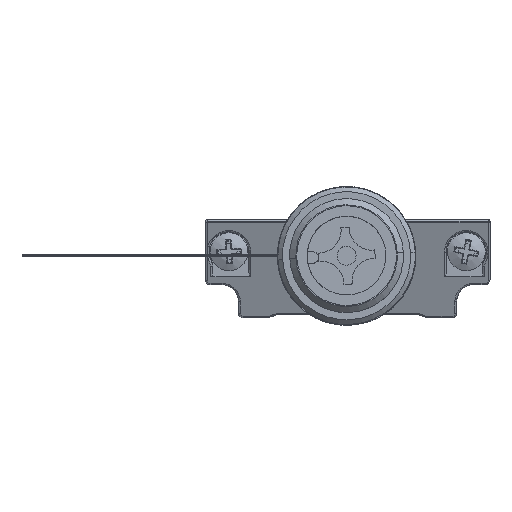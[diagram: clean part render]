
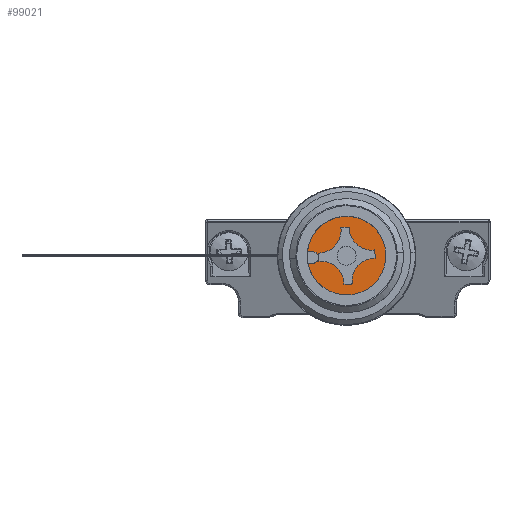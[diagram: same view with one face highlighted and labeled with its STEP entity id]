
A CAD part, top view. The second image highlights one B-rep face of the part: STEP entity #99021.
In plain terms, the highlighted planar face has unit normal (0, 0, 1).
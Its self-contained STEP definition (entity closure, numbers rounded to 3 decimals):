
#95180=DIRECTION('',(-0.999,-0.054,0.));
#95181=VECTOR('',#95180,0.56);
#95182=CARTESIAN_POINT('',(-3.683,6.102,
191.542));
#95183=LINE('',#95182,#95181);
#95184=CARTESIAN_POINT('',(-0.109,5.695,
191.542));
#95185=DIRECTION('',(0.,0.,-1.));
#95186=DIRECTION('',(-0.996,0.091,0.));
#95187=AXIS2_PLACEMENT_3D('',#95184,#95185,#95186);
#95189=CARTESIAN_POINT('',(-0.109,5.695,
191.542));
#95190=DIRECTION('',(0.,0.,-1.));
#95191=DIRECTION('',(-0.054,0.999,0.));
#95192=AXIS2_PLACEMENT_3D('',#95189,#95190,#95191);
#95194=CARTESIAN_POINT('',(-0.109,5.695,
191.542));
#95195=DIRECTION('',(0.,0.,-1.));
#95196=DIRECTION('',(0.054,-0.999,0.));
#95197=AXIS2_PLACEMENT_3D('',#95194,#95195,#95196);
#95199=DIRECTION('',(0.999,0.054,0.));
#95200=VECTOR('',#95199,0.56);
#95201=CARTESIAN_POINT('',(-4.177,4.873,
191.542));
#95202=LINE('',#95201,#95200);
#95203=DIRECTION('',(0.054,-0.999,0.));
#95204=VECTOR('',#95203,0.364);
#95205=CARTESIAN_POINT('',(-3.051,5.47,
191.542));
#95206=LINE('',#95205,#95204);
#95207=CARTESIAN_POINT('',(-2.78,2.719,
191.542));
#95208=DIRECTION('',(0.,0.,-1.));
#95209=DIRECTION('',(-0.105,0.994,0.));
#95210=AXIS2_PLACEMENT_3D('',#95207,#95208,#95209);
#95212=DIRECTION('',(0.999,0.054,0.));
#95213=VECTOR('',#95212,0.87);
#95214=CARTESIAN_POINT('',(-0.38,2.676,
191.542));
#95215=LINE('',#95214,#95213);
#95216=CARTESIAN_POINT('',(2.869,3.03,191.542));
#95217=DIRECTION('',(0.,0.,-1.));
#95218=DIRECTION('',(-0.992,-0.127,0.));
#95219=AXIS2_PLACEMENT_3D('',#95216,#95217,#95218);
#95221=DIRECTION('',(-0.054,0.999,0.));
#95222=VECTOR('',#95221,0.87);
#95223=CARTESIAN_POINT('',(2.91,5.429,191.542));
#95224=LINE('',#95223,#95222);
#95225=CARTESIAN_POINT('',(2.562,8.679,191.542));
#95226=DIRECTION('',(0.,0.,-1.));
#95227=DIRECTION('',(0.125,-0.992,0.));
#95228=AXIS2_PLACEMENT_3D('',#95225,#95226,#95227);
#95230=CARTESIAN_POINT('',(2.562,8.679,191.542));
#95231=DIRECTION('',(0.,0.,-1.));
#95232=DIRECTION('',(0.054,-0.999,0.));
#95233=AXIS2_PLACEMENT_3D('',#95230,#95231,#95232);
#95235=DIRECTION('',(-0.999,-0.054,0.));
#95236=VECTOR('',#95235,0.87);
#95237=CARTESIAN_POINT('',(0.162,8.715,
191.542));
#95238=LINE('',#95237,#95236);
#95239=CARTESIAN_POINT('',(-3.087,8.364,
191.542));
#95240=DIRECTION('',(0.,0.,-1.));
#95241=DIRECTION('',(0.992,0.126,0.));
#95242=AXIS2_PLACEMENT_3D('',#95239,#95240,#95241);
#95244=CARTESIAN_POINT('',(-3.087,8.364,
191.542));
#95245=DIRECTION('',(0.,0.,-1.));
#95246=DIRECTION('',(0.054,-0.999,0.));
#95247=AXIS2_PLACEMENT_3D('',#95244,#95245,#95246);
#95249=DIRECTION('',(0.054,-0.999,0.));
#95250=VECTOR('',#95249,0.364);
#95251=CARTESIAN_POINT('',(-3.078,5.964,
191.542));
#95252=LINE('',#95251,#95250);
#95266=CARTESIAN_POINT('',(-3.65,5.503,
191.542));
#95267=DIRECTION('',(0.,0.,-1.));
#95268=DIRECTION('',(-0.054,0.999,0.));
#95269=AXIS2_PLACEMENT_3D('',#95266,#95267,#95268);
#95271=CARTESIAN_POINT('',(-3.058,5.601,
191.542));
#95278=CARTESIAN_POINT('',(-3.051,5.47,
191.542));
#95280=CARTESIAN_POINT('',(-3.65,5.503,
191.542));
#95281=DIRECTION('',(0.,0.,-1.));
#95282=DIRECTION('',(0.998,-0.055,0.));
#95283=AXIS2_PLACEMENT_3D('',#95280,#95281,#95282);
#95711=CARTESIAN_POINT('',(-4.242,6.071,
191.542));
#95712=CARTESIAN_POINT('',(-0.335,9.839,
191.542));
#95713=VERTEX_POINT('',#95711);
#95714=VERTEX_POINT('',#95712);
#95735=CARTESIAN_POINT('',(-2.957,5.968,
191.542));
#95736=VERTEX_POINT('',#95735);
#95737=CARTESIAN_POINT('',(-0.707,8.667,
191.542));
#95739=VERTEX_POINT('',#95737);
#95741=CARTESIAN_POINT('',(2.692,6.283,191.542));
#95742=VERTEX_POINT('',#95741);
#95743=CARTESIAN_POINT('',(2.862,6.298,191.542));
#95745=VERTEX_POINT('',#95743);
#95751=CARTESIAN_POINT('',(0.488,2.724,
191.542));
#95752=VERTEX_POINT('',#95751);
#95757=VERTEX_POINT('',#95271);
#95758=VERTEX_POINT('',#95278);
#95761=CARTESIAN_POINT('',(-3.618,4.904,
191.542));
#95762=VERTEX_POINT('',#95761);
#95763=CARTESIAN_POINT('',(-3.683,6.102,
191.542));
#95764=VERTEX_POINT('',#95763);
#95933=CARTESIAN_POINT('',(0.116,1.552,
191.542));
#95934=VERTEX_POINT('',#95933);
#95935=CARTESIAN_POINT('',(-4.177,4.873,
191.542));
#95936=VERTEX_POINT('',#95935);
#95939=CARTESIAN_POINT('',(0.162,8.715,
191.542));
#95940=VERTEX_POINT('',#95939);
#95941=CARTESIAN_POINT('',(-3.078,5.964,
191.542));
#95942=VERTEX_POINT('',#95941);
#95943=CARTESIAN_POINT('',(-3.031,5.106,
191.542));
#95944=VERTEX_POINT('',#95943);
#95945=CARTESIAN_POINT('',(-0.38,2.676,
191.542));
#95946=VERTEX_POINT('',#95945);
#95947=CARTESIAN_POINT('',(2.91,5.429,191.542));
#95948=VERTEX_POINT('',#95947);
#98980=CARTESIAN_POINT('',(-0.109,5.695,
191.542));
#98981=DIRECTION('',(0.,0.,1.));
#98982=DIRECTION('',(0.054,-0.999,0.));
#98983=AXIS2_PLACEMENT_3D('',#98980,#98981,#98982);
#98984=PLANE('',#98983);
#98986=ORIENTED_EDGE('',*,*,#98985,.T.);
#98987=ORIENTED_EDGE('',*,*,#98962,.T.);
#98989=ORIENTED_EDGE('',*,*,#98988,.T.);
#98990=ORIENTED_EDGE('',*,*,#98970,.T.);
#98992=ORIENTED_EDGE('',*,*,#98991,.T.);
#98994=ORIENTED_EDGE('',*,*,#98993,.F.);
#98996=ORIENTED_EDGE('',*,*,#98995,.T.);
#98998=ORIENTED_EDGE('',*,*,#98997,.T.);
#99000=ORIENTED_EDGE('',*,*,#98999,.T.);
#99002=ORIENTED_EDGE('',*,*,#99001,.T.);
#99004=ORIENTED_EDGE('',*,*,#99003,.T.);
#99006=ORIENTED_EDGE('',*,*,#99005,.T.);
#99008=ORIENTED_EDGE('',*,*,#99007,.T.);
#99010=ORIENTED_EDGE('',*,*,#99009,.T.);
#99012=ORIENTED_EDGE('',*,*,#99011,.T.);
#99014=ORIENTED_EDGE('',*,*,#99013,.T.);
#99016=ORIENTED_EDGE('',*,*,#99015,.T.);
#99018=ORIENTED_EDGE('',*,*,#99017,.F.);
#99019=EDGE_LOOP('',(#98986,#98987,#98989,#98990,#98992,#98994,#98996,#98998,
#99000,#99002,#99004,#99006,#99008,#99010,#99012,#99014,#99016,#99018));
#99020=FACE_OUTER_BOUND('',#99019,.F.);
#99021=ADVANCED_FACE('',(#99020),#98984,.T.);
#95188=CIRCLE('',#95187,4.15);
#95193=CIRCLE('',#95192,4.15);
#95198=CIRCLE('',#95197,4.15);
#95211=CIRCLE('',#95210,2.4);
#95220=CIRCLE('',#95219,2.4);
#95229=CIRCLE('',#95228,2.4);
#95234=CIRCLE('',#95233,2.4);
#95243=CIRCLE('',#95242,2.4);
#95248=CIRCLE('',#95247,2.4);
#95270=CIRCLE('',#95269,0.6);
#95284=CIRCLE('',#95283,0.6);
#98962=EDGE_CURVE('',#95713,#95714,#95188,.T.);
#98970=EDGE_CURVE('',#95934,#95936,#95198,.T.);
#98985=EDGE_CURVE('',#95764,#95713,#95183,.T.);
#98988=EDGE_CURVE('',#95714,#95934,#95193,.T.);
#98991=EDGE_CURVE('',#95936,#95762,#95202,.T.);
#98993=EDGE_CURVE('',#95758,#95762,#95284,.T.);
#98995=EDGE_CURVE('',#95758,#95944,#95206,.T.);
#98997=EDGE_CURVE('',#95944,#95946,#95211,.T.);
#98999=EDGE_CURVE('',#95946,#95752,#95215,.T.);
#99001=EDGE_CURVE('',#95752,#95948,#95220,.T.);
#99003=EDGE_CURVE('',#95948,#95745,#95224,.T.);
#99005=EDGE_CURVE('',#95745,#95742,#95229,.T.);
#99007=EDGE_CURVE('',#95742,#95940,#95234,.T.);
#99009=EDGE_CURVE('',#95940,#95739,#95238,.T.);
#99011=EDGE_CURVE('',#95739,#95736,#95243,.T.);
#99013=EDGE_CURVE('',#95736,#95942,#95248,.T.);
#99015=EDGE_CURVE('',#95942,#95757,#95252,.T.);
#99017=EDGE_CURVE('',#95764,#95757,#95270,.T.);
